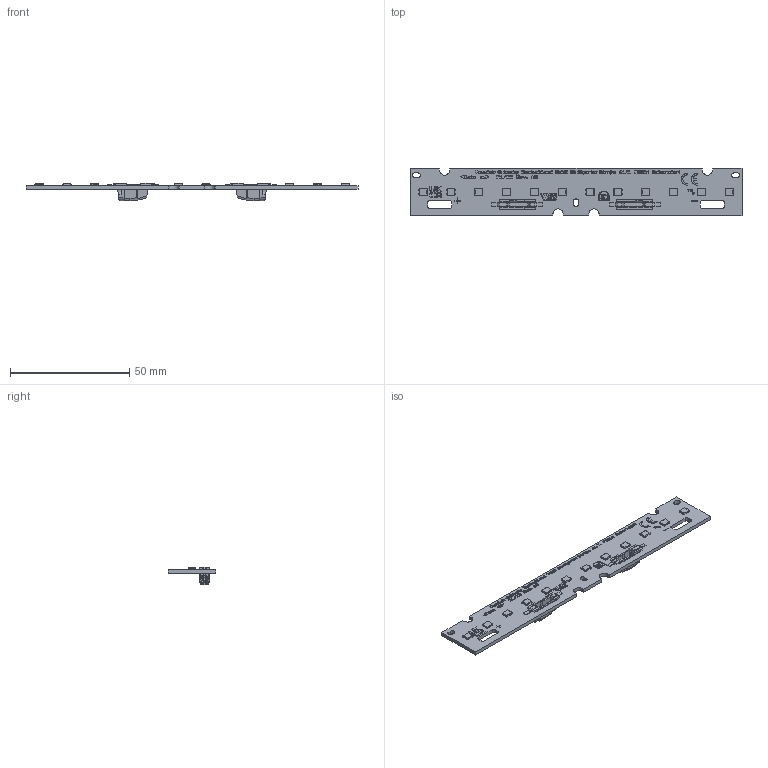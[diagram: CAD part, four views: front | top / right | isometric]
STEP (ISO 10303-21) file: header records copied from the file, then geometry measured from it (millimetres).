
FILE_DESCRIPTION(('Creo Elements/Direct Modeling STEP Export'),'2;1');
FILE_NAME('3D-Model_WU-M-732-BC.stp','2024-11-20T 9:46:26',(''),(''),'PTC Creo Elements/Direct Modeling STEP processor for AP214 (Solid Model)','PTC Creo Elements/Direct Modeling 19.0E 27-Jun-2016 (C) Parametric Technology GmbH','');
FILE_SCHEMA(('AUTOMOTIVE_DESIGN { 1 0 10303 214 1 1 1 1 }'));
Length unit declared in the file: millimetre
Products named in the file (356): _____STEP_PRT_3-12100.PRT.5; _____STEP_PRT_3-12100.PRT.4; _____STEP_PRT_3-12100.PRT.3; _____STEP_PRT_3-12100.PRT.2; _____STEP_PRT_3-12100.PRT.1; _____STEP_PRT_3-12100.PRT; _____STEP_PRT-24640.PRT.5; _____STEP_PRT-24640.PRT.4; _____STEP_PRT-24640.PRT.3; _____STEP_PRT-24640.PRT.2; _____STEP_PRT-24640.PRT.1; _____STEP_PRT-24640.PRT; _____-0_STEP_PRT_3-133810.PRT.5; _____-0_STEP_PRT_3-133810.PRT.4; _____-0_STEP_PRT_3-133810.PRT.3; _____-0_STEP_PRT_3-133810.PRT.2; _____-0_STEP_PRT_3-133810.PRT.1; _____-0_STEP_PRT_3-133810.PRT; _____-0_STEP_PRT-243790.PRT.5; _____-0_STEP_PRT-243790.PRT.4; _____-0_STEP_PRT-243790.PRT.3; _____-0_STEP_PRT-243790.PRT.2; _____-0_STEP_PRT-243790.PRT.1; _____-0_STEP_PRT-243790.PRT; KONEKTOR_BJB_46_111_1001-398830.PRT; KONEKTOR_BJB_46_111_1001-320860.PRT; 3D-PLATE_WU-M-731_99-404760.PRT; 3D-PLATE_WU-M-731_98-419580.PRT; 3D-PLATE_WU-M-731_97-429780.PRT; 3D-PLATE_WU-M-731_96-440700.PRT; 3D-PLATE_WU-M-731_95-445120.PRT; 3D-PLATE_WU-M-731_94-460100.PRT; 3D-PLATE_WU-M-731_93-469110.PRT; 3D-PLATE_WU-M-731_92-479160.PRT; 3D-PLATE_WU-M-731_91-490060.PRT; 3D-PLATE_WU-M-731_90-496920.PRT; 3D-PLATE_WU-M-731_9-507760.PRT; 3D-PLATE_WU-M-731_89-516220.PRT; 3D-PLATE_WU-M-731_88-527500.PRT; 3D-PLATE_WU-M-731_87-533130.PRT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
Assembly tree (178 placements, depth 2):
  _____STEP_PRT_3-12100.PRT.5
    _____STEP_PRT_3-12100.PRT.5
  _____STEP_PRT_3-12100.PRT.4
    _____STEP_PRT_3-12100.PRT.4
  _____STEP_PRT_3-12100.PRT.3
    _____STEP_PRT_3-12100.PRT.3
  _____STEP_PRT_3-12100.PRT.2
    _____STEP_PRT_3-12100.PRT.2
  _____STEP_PRT_3-12100.PRT.1
    _____STEP_PRT_3-12100.PRT.1
Bounding box: 139 x 20 x 7.4 mm (x, y, z)
Volume: 4524.2 mm3; surface area: 8486.5 mm2
Topology: 178 solids, 178 shells, 6897 faces, 19116 edges, 12510 vertices
Faces by surface type: plane 5123, cylinder 1750, bspline 14, cone 8, extrusion 2
Entity records: 281658 total; most frequent: CARTESIAN_POINT 39932, ORIENTED_EDGE 38214, DIRECTION 36680, EDGE_CURVE 19107, VECTOR 15496, LINE 15494, VERTEX_POINT 12510, AXIS2_PLACEMENT_3D 10592
